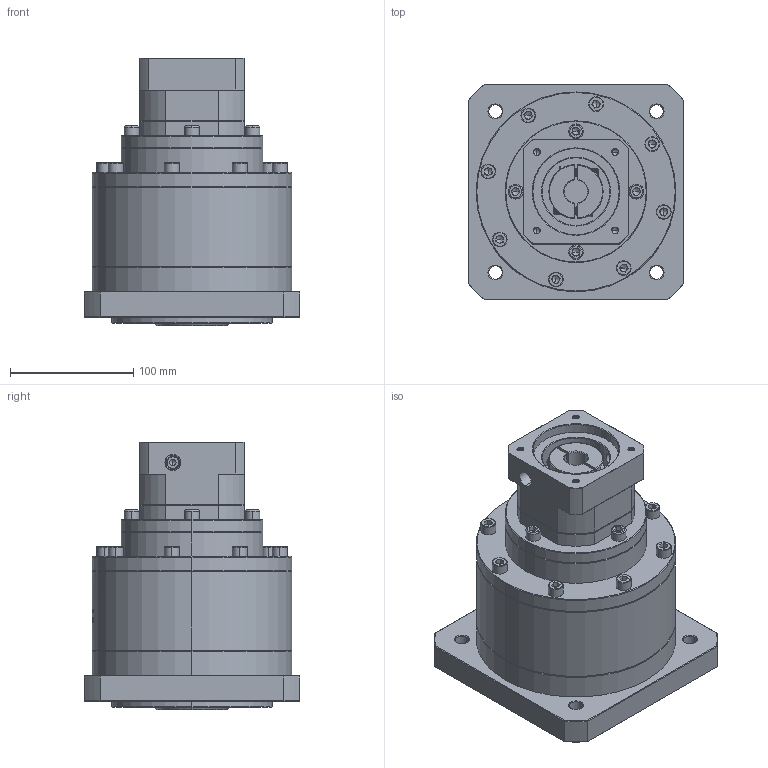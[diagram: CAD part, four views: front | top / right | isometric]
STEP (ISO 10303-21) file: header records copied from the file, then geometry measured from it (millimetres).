
FILE_DESCRIPTION (( 'STEP AP214' ), '1' );
FILE_NAME ('ZF160A-K35-L3-19-70-90-M6.step', '2023-03-22T07:12:32', ( '' ), ( '' ), 'SwSTEP 2.0', 'SolidWorks 2016', '' );
FILE_SCHEMA (( 'AUTOMOTIVE_DESIGN' ));
Length unit declared in the file: millimetre
Products named in the file (1): ZF160A-K35-L3-19-70-90-M6
Bounding box: 175 x 175 x 217.2 mm (x, y, z)
Volume: 3248171.4 mm3; surface area: 220115.2 mm2
Topology: 5 solids, 5 shells, 1760 faces, 4490 edges, 2846 vertices
Faces by surface type: plane 759, cylinder 421, cone 324, bspline 212, torus 44
Entity records: 90166 total; most frequent: CARTESIAN_POINT 30348, ORIENTED_EDGE 8876, DIRECTION 7753, EDGE_CURVE 4438, VERTEX_POINT 2846, AXIS2_PLACEMENT_3D 2664, VECTOR 2425, LINE 2425
